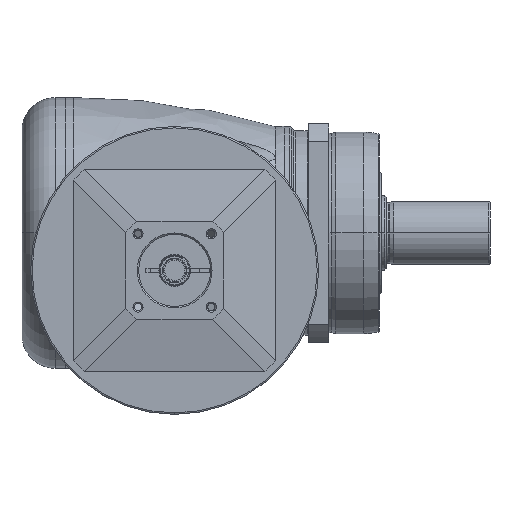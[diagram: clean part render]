
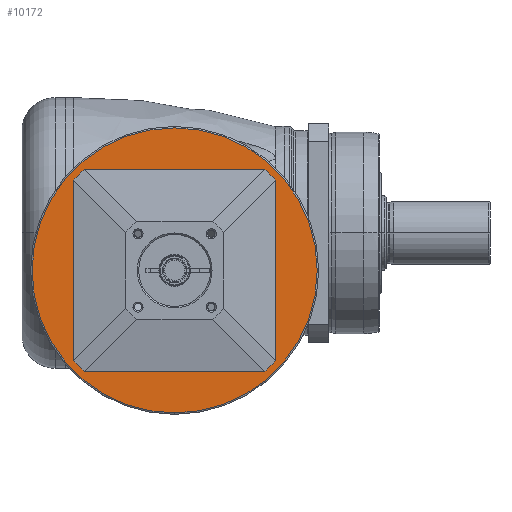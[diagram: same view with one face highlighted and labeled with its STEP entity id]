
A CAD part, front view. The second image highlights one B-rep face of the part: STEP entity #10172.
In plain terms, the highlighted planar face has unit normal (0, -1, 0) as drawn and (1, 0, 0) by its records, which use the part's own axes.
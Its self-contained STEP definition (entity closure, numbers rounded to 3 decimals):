
#9155=CARTESIAN_POINT('',(-7.,0.,0.));
#9156=DIRECTION('',(-1.,0.,0.));
#9157=DIRECTION('',(0.,-1.,0.));
#9158=AXIS2_PLACEMENT_3D('',#9155,#9156,#9157);
#9160=CARTESIAN_POINT('',(-7.,0.,0.));
#9161=DIRECTION('',(-1.,0.,0.));
#9162=DIRECTION('',(0.,1.,0.));
#9163=AXIS2_PLACEMENT_3D('',#9160,#9161,#9162);
#9165=CARTESIAN_POINT('',(-7.,0.,0.));
#9166=DIRECTION('',(-1.,0.,0.));
#9167=DIRECTION('',(0.,-1.,0.));
#9168=AXIS2_PLACEMENT_3D('',#9165,#9166,#9167);
#9170=CARTESIAN_POINT('',(-7.,0.,0.));
#9171=DIRECTION('',(-1.,0.,0.));
#9172=DIRECTION('',(0.,1.,0.));
#9173=AXIS2_PLACEMENT_3D('',#9170,#9171,#9172);
#9417=CARTESIAN_POINT('',(-7.,-49.5,0.));
#9418=CARTESIAN_POINT('',(-7.,49.5,0.));
#9419=VERTEX_POINT('',#9417);
#9420=VERTEX_POINT('',#9418);
#9475=CARTESIAN_POINT('',(-7.,-34.5,0.));
#9476=CARTESIAN_POINT('',(-7.,34.5,0.));
#9477=VERTEX_POINT('',#9475);
#9478=VERTEX_POINT('',#9476);
#10157=CARTESIAN_POINT('',(-7.,0.,0.));
#10158=DIRECTION('',(1.,0.,0.));
#10159=DIRECTION('',(0.,-1.,0.));
#10160=AXIS2_PLACEMENT_3D('',#10157,#10158,#10159);
#10161=PLANE('',#10160);
#10162=ORIENTED_EDGE('',*,*,#10089,.T.);
#10163=ORIENTED_EDGE('',*,*,#10074,.T.);
#10164=EDGE_LOOP('',(#10162,#10163));
#10165=FACE_OUTER_BOUND('',#10164,.F.);
#10167=ORIENTED_EDGE('',*,*,#10166,.F.);
#10169=ORIENTED_EDGE('',*,*,#10168,.F.);
#10170=EDGE_LOOP('',(#10167,#10169));
#10171=FACE_BOUND('',#10170,.F.);
#10172=ADVANCED_FACE('',(#10165,#10171),#10161,.T.);
#9159=CIRCLE('',#9158,34.5);
#9164=CIRCLE('',#9163,34.5);
#9169=CIRCLE('',#9168,49.5);
#9174=CIRCLE('',#9173,49.5);
#10074=EDGE_CURVE('',#9420,#9419,#9174,.T.);
#10089=EDGE_CURVE('',#9419,#9420,#9169,.T.);
#10166=EDGE_CURVE('',#9477,#9478,#9159,.T.);
#10168=EDGE_CURVE('',#9478,#9477,#9164,.T.);
